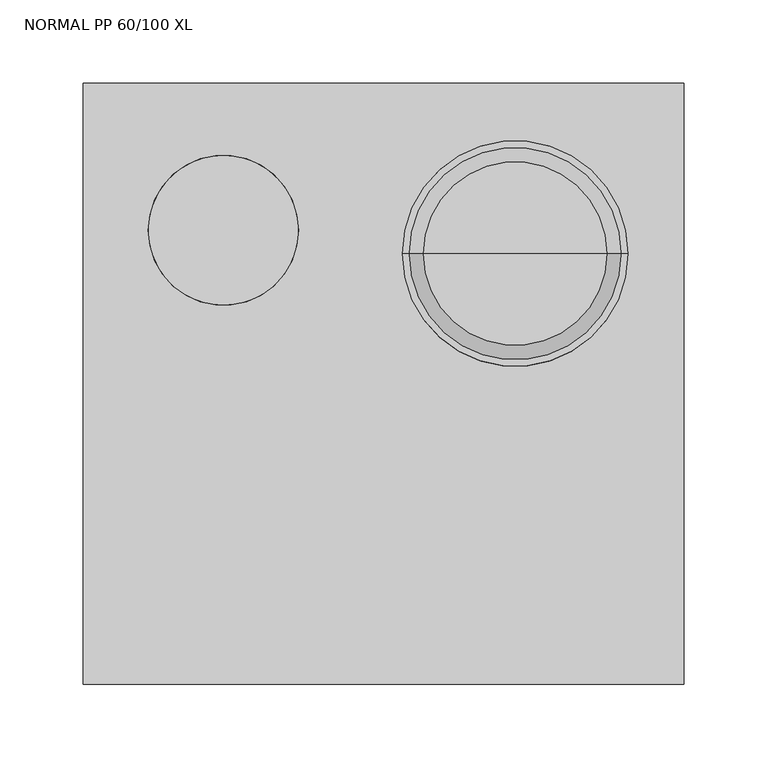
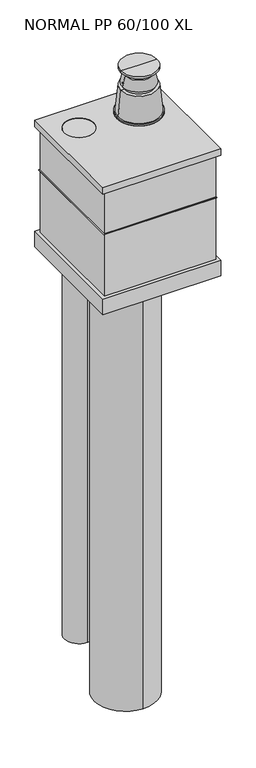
"""IFC4 building model written with IfcOpenShell, lengths in millimetres: proxy geometry, DERS_420_AM_AEB_Mini-Delta_M&G : NORMAL PP 60/100 XL."""

from ifc_helpers import new_model, si_unit, point, frame, frame_2d, origin, place, context, project, spatial, polyline, circle_curve, trimmed, segment, composite_curve, outline, extrude, faceted_brep, source, transform, mapped, element, save
from ifc_brep_helpers import plane_surface, cylinder_surface, revolved_surface, advanced_brep


def normal_pp_60_100_xl_eae264ee(model_context):
    return source(origin(), model_context, "Body", "SolidModel", [
        advanced_brep(
        [(166.5, 78.0, 568.2650457), (-8.5, 78.0, 568.2650457), (79.0, 78.0, 568.2650457), (146.6156617, 78.0, 677.2650457), (11.3843383, 78.0, 677.2650457), (146.6156617, 78.0, 682.2650457), (11.3843383, 78.0, 682.2650457), (142.6549252, 78.0, 682.2650457), (15.3450748, 78.0, 682.2650457), (134.0, 78.0, 764.611158), (24.0, 78.0, 764.611158), (124.0, 78.0, 764.611158), (34.0, 78.0, 764.611158), (124.0, 78.0, 774.611158), (34.0, 78.0, 774.611158), (129.038744, 78.0, 774.611158), (28.961256, 78.0, 774.611158), (121.5, 78.0, 807.2650457), (36.5, 78.0, 807.2650457), (89.0, 78.0, 807.2650457), (69.0, 78.0, 807.2650457), (89.0, 78.0, 809.2457936), (69.0, 78.0, 809.2457936), (134.0, 78.0, 821.3035072), (24.0, 78.0, 821.3035072), (134.0, 78.0, 827.2650457), (24.0, 78.0, 827.2650457), (79.0, 78.0, 827.2650457)],
        [
            (0, 1, circle_curve(frame((79.0, 78.0, 568.2650457), z_axis=(0.0, 0.0, -1.0), x_axis=(-1.0, 0.0, 0.0)), 87.5)),
            (1, 2),
            (2, 0),
            (1, 0, circle_curve(frame((79.0, 78.0, 568.2650457), z_axis=(0.0, 0.0, -1.0), x_axis=(-1.0, 0.0, 0.0)), 87.5)),
            (3, 4, circle_curve(frame((79.0, 78.0, 677.2650457), z_axis=(0.0, 0.0, -1.0), x_axis=(-1.0, 0.0, 0.0)), 67.6156617)),
            (4, 1),
            (0, 3),
            (4, 3, circle_curve(frame((79.0, 78.0, 677.2650457), z_axis=(0.0, 0.0, -1.0), x_axis=(-1.0, 0.0, 0.0)), 67.6156617)),
            (5, 6, circle_curve(frame((79.0, 78.0, 682.2650457), z_axis=(0.0, 0.0, -1.0), x_axis=(-1.0, 0.0, 0.0)), 67.6156617)),
            (6, 4),
            (3, 5),
            (6, 5, circle_curve(frame((79.0, 78.0, 682.2650457), z_axis=(0.0, 0.0, -1.0), x_axis=(-1.0, 0.0, 0.0)), 67.6156617)),
            (7, 8, circle_curve(frame((79.0, 78.0, 682.2650457), z_axis=(0.0, 0.0, -1.0), x_axis=(-1.0, 0.0, 0.0)), 63.6549252)),
            (8, 6),
            (5, 7),
            (8, 7, circle_curve(frame((79.0, 78.0, 682.2650457), z_axis=(0.0, 0.0, -1.0), x_axis=(-1.0, 0.0, 0.0)), 63.6549252)),
            (9, 10, circle_curve(frame((79.0, 78.0, 764.611158), z_axis=(0.0, 0.0, -1.0), x_axis=(-1.0, 0.0, 0.0)), 55.0)),
            (10, 8),
            (7, 9),
            (10, 9, circle_curve(frame((79.0, 78.0, 764.611158), z_axis=(0.0, 0.0, -1.0), x_axis=(-1.0, 0.0, 0.0)), 55.0)),
            (11, 12, circle_curve(frame((79.0, 78.0, 764.611158), z_axis=(0.0, 0.0, -1.0), x_axis=(-1.0, 0.0, 0.0)), 45.0)),
            (12, 10),
            (9, 11),
            (12, 11, circle_curve(frame((79.0, 78.0, 764.611158), z_axis=(0.0, 0.0, -1.0), x_axis=(-1.0, 0.0, 0.0)), 45.0)),
            (13, 14, circle_curve(frame((79.0, 78.0, 774.611158), z_axis=(0.0, 0.0, -1.0), x_axis=(-1.0, 0.0, 0.0)), 45.0)),
            (14, 12),
            (11, 13),
            (14, 13, circle_curve(frame((79.0, 78.0, 774.611158), z_axis=(0.0, 0.0, -1.0), x_axis=(-1.0, 0.0, 0.0)), 45.0)),
            (15, 16, circle_curve(frame((79.0, 78.0, 774.611158), z_axis=(0.0, 0.0, -1.0), x_axis=(-1.0, 0.0, 0.0)), 50.038744)),
            (16, 14),
            (13, 15),
            (16, 15, circle_curve(frame((79.0, 78.0, 774.611158), z_axis=(0.0, 0.0, -1.0), x_axis=(-1.0, 0.0, 0.0)), 50.038744)),
            (17, 18, circle_curve(frame((79.0, 78.0, 807.2650457), z_axis=(0.0, 0.0, -1.0), x_axis=(-1.0, 0.0, 0.0)), 42.5)),
            (18, 16),
            (15, 17),
            (18, 17, circle_curve(frame((79.0, 78.0, 807.2650457), z_axis=(0.0, 0.0, -1.0), x_axis=(-1.0, 0.0, 0.0)), 42.5)),
            (19, 20, circle_curve(frame((79.0, 78.0, 807.2650457), z_axis=(0.0, 0.0, -1.0), x_axis=(-1.0, 0.0, 0.0)), 10.0)),
            (20, 18),
            (17, 19),
            (20, 19, circle_curve(frame((79.0, 78.0, 807.2650457), z_axis=(0.0, 0.0, -1.0), x_axis=(-1.0, 0.0, 0.0)), 10.0)),
            (21, 22, circle_curve(frame((79.0, 78.0, 809.2457936), z_axis=(0.0, 0.0, -1.0), x_axis=(-1.0, 0.0, 0.0)), 10.0)),
            (22, 20),
            (19, 21),
            (22, 21, circle_curve(frame((79.0, 78.0, 809.2457936), z_axis=(0.0, 0.0, -1.0), x_axis=(-1.0, 0.0, 0.0)), 10.0)),
            (23, 24, circle_curve(frame((79.0, 78.0, 821.3035072), z_axis=(0.0, 0.0, -1.0), x_axis=(-1.0, 0.0, 0.0)), 55.0)),
            (24, 22),
            (21, 23),
            (24, 23, circle_curve(frame((79.0, 78.0, 821.3035072), z_axis=(0.0, 0.0, -1.0), x_axis=(-1.0, 0.0, 0.0)), 55.0)),
            (25, 26, circle_curve(frame((79.0, 78.0, 827.2650457), z_axis=(0.0, 0.0, -1.0), x_axis=(-1.0, 0.0, 0.0)), 55.0)),
            (26, 24),
            (23, 25),
            (26, 25, circle_curve(frame((79.0, 78.0, 827.2650457), z_axis=(0.0, 0.0, -1.0), x_axis=(-1.0, 0.0, 0.0)), 55.0)),
            (27, 26),
            (25, 27),
        ],
        [
            plane_surface(frame((79.0, 78.0, 568.2650457), z_axis=(0.0, 0.0, -1.0), x_axis=(-1.0, 0.0, 0.0))),
            revolved_surface(polyline([(-8.5, 78.0, 568.2650457), (11.3843383, 78.0, 677.2650457)]), (79.0, 78.0, -231.4661326), (0.0, 0.0, 1.0)),
            cylinder_surface(frame((79.0, 78.0, -231.4661326), z_axis=(0.0, 0.0, 1.0), x_axis=(-1.0, 0.0, 0.0)), 67.6156617),
            plane_surface(frame((79.0, 78.0, 682.2650457), z_axis=(0.0, 0.0, 1.0), x_axis=(-1.0, 0.0, 0.0))),
            revolved_surface(polyline([(15.3450748, 78.0, 682.2650457), (24.0, 78.0, 764.611158)]), (79.0, 78.0, -231.4661326), (0.0, 0.0, 1.0)),
            plane_surface(frame((79.0, 78.0, 764.611158), z_axis=(0.0, 0.0, 1.0), x_axis=(-1.0, 0.0, 0.0))),
            cylinder_surface(frame((79.0, 78.0, -231.4661326), z_axis=(0.0, 0.0, 1.0), x_axis=(-1.0, 0.0, 0.0)), 45.0),
            plane_surface(frame((79.0, 78.0, 774.611158), z_axis=(0.0, 0.0, -1.0), x_axis=(-1.0, 0.0, 0.0))),
            revolved_surface(polyline([(28.961256, 78.0, 774.611158), (36.5, 78.0, 807.2650457)]), (79.0, 78.0, -231.4661326), (0.0, 0.0, 1.0)),
            plane_surface(frame((79.0, 78.0, 807.2650457), z_axis=(0.0, 0.0, 1.0), x_axis=(-1.0, 0.0, 0.0))),
            cylinder_surface(frame((79.0, 78.0, -231.4661326), z_axis=(0.0, 0.0, 1.0), x_axis=(-1.0, 0.0, 0.0)), 10.0),
            revolved_surface(polyline([(69.0, 78.0, 809.2457936), (24.0, 78.0, 821.3035072)]), (79.0, 78.0, -231.4661326), (0.0, 0.0, 1.0)),
            cylinder_surface(frame((79.0, 78.0, -231.4661326), z_axis=(0.0, 0.0, 1.0), x_axis=(-1.0, 0.0, 0.0)), 55.0),
            plane_surface(frame((79.0, 78.0, 827.2650457), z_axis=(0.0, 0.0, 1.0), x_axis=(-1.0, 0.0, 0.0))),
        ],
        [
            (0, [[1, 2, 3]]),
            (0, [[4, -3, -2]]),
            (1, [[5, 6, -1, 7]]),
            (1, [[8, -7, -4, -6]]),
            (2, [[9, 10, -5, 11]]),
            (2, [[12, -11, -8, -10]]),
            (3, [[13, 14, -9, 15]]),
            (3, [[16, -15, -12, -14]]),
            (4, [[17, 18, -13, 19]]),
            (4, [[20, -19, -16, -18]]),
            (5, [[21, 22, -17, 23]]),
            (5, [[24, -23, -20, -22]]),
            (6, [[25, 26, -21, 27]]),
            (6, [[28, -27, -24, -26]]),
            (7, [[29, 30, -25, 31]]),
            (7, [[32, -31, -28, -30]]),
            (8, [[33, 34, -29, 35]]),
            (8, [[36, -35, -32, -34]]),
            (9, [[37, 38, -33, 39]]),
            (9, [[40, -39, -36, -38]]),
            (10, [[41, 42, -37, 43]]),
            (10, [[44, -43, -40, -42]]),
            (11, [[45, 46, -41, 47]]),
            (11, [[48, -47, -44, -46]]),
            (12, [[49, 50, -45, 51]]),
            (12, [[52, -51, -48, -50]]),
            (13, [[53, -49, 54]]),
            (13, [[-54, -52, -53]]),
        ],
    ),
        extrude(outline(polyline([(172.5, 172.5), (172.5, -172.5), (-172.5, -172.5), (-172.5, 172.5), (172.5, 172.5)])), frame((0.0, 0.0, 518.2650457), z_axis=(0.0, 0.0, 1.0), x_axis=(1.0, 0.0, 0.0)), (0.0, 0.0, 1.0), 1.3),
        extrude(outline(composite_curve([segment(trimmed(circle_curve(frame_2d((-96.0, 92.0)), 45.0), [point((-96.0, 47.0))], [point((-96.0, 137.0))], False, "CARTESIAN"), True, "CONTINUOUS"), segment(trimmed(circle_curve(frame_2d((-96.0, 92.0)), 45.0), [point((-96.0, 137.0))], [point((-96.0, 47.0))], False, "CARTESIAN"), True, "CONTINUOUS")], self_intersect=False)), frame((0.0, 0.0, -957.7349543), z_axis=(0.0, 0.0, 1.0), x_axis=(1.0, 0.0, 0.0)), (0.0, 0.0, 1.0), 1633.7),
        extrude(outline(composite_curve([segment(trimmed(circle_curve(frame_2d((79.0, 78.0)), 50.0), [point((79.0, 28.0))], [point((79.0, 128.0))], False, "CARTESIAN"), True, "CONTINUOUS"), segment(trimmed(circle_curve(frame_2d((79.0, 78.0)), 50.0), [point((79.0, 128.0))], [point((79.0, 28.0))], False, "CARTESIAN"), True, "CONTINUOUS")], self_intersect=False)), frame((0.0, 0.0, -791.7349543), z_axis=(0.0, 0.0, 1.0), x_axis=(1.0, 0.0, 0.0)), (0.0, 0.0, 1.0), 1449.0),
        extrude(outline(composite_curve([segment(trimmed(circle_curve(frame_2d((-31.0, -41.0)), 95.0), [point((-31.0, -136.0))], [point((-31.0, 54.0))], False, "CARTESIAN"), True, "CONTINUOUS"), segment(trimmed(circle_curve(frame_2d((-31.0, -41.0)), 95.0), [point((-31.0, 54.0))], [point((-31.0, -136.0))], False, "CARTESIAN"), True, "CONTINUOUS")], self_intersect=False)), frame((0.0, 0.0, -1083.7349543), z_axis=(0.0, 0.0, 1.0), x_axis=(1.0, 0.0, 0.0)), (0.0, 0.0, 1.0), 1500.0),
        advanced_brep(
        [(180.0, 180.0, 677.2650457), (-180.0, 180.0, 677.2650457), (-180.0, -180.0, 677.2650457), (180.0, -180.0, 677.2650457), (-141.0, 92.0, 677.2650457), (-51.0, 92.0, 677.2650457), (180.0, 180.0, 657.2650457), (180.0, -180.0, 657.2650457), (-180.0, -180.0, 657.2650457), (-180.0, 180.0, 657.2650457), (178.7, 178.7, 657.2650457), (-178.7, 178.7, 657.2650457), (-178.7, -178.7, 657.2650457), (178.7, -178.7, 657.2650457), (170.0, 170.0, 657.2650457), (170.0, -170.0, 657.2650457), (-170.0, -170.0, 657.2650457), (-170.0, 170.0, 657.2650457), (168.7, -168.7, 657.2650457), (168.7, 168.7, 657.2650457), (-168.7, 168.7, 657.2650457), (-168.7, -168.7, 657.2650457), (178.7, 178.7, 675.9650457), (178.7, -178.7, 675.9650457), (-178.7, -178.7, 675.9650457), (-178.7, 178.7, 675.9650457), (170.0, 170.0, 675.9650457), (-170.0, 170.0, 675.9650457), (-170.0, -170.0, 675.9650457), (170.0, -170.0, 675.9650457), (168.7, -168.7, 675.9650457), (-168.7, -168.7, 675.9650457), (-168.7, 168.7, 675.9650457), (168.7, 168.7, 675.9650457), (-51.0, 92.0, 675.9650457), (-141.0, 92.0, 675.9650457)],
        [
            (0, 1),
            (1, 2),
            (2, 3),
            (3, 0),
            (4, 5, circle_curve(frame((-96.0, 92.0, 677.2650457), z_axis=(0.0, 0.0, -1.0), x_axis=(1.0, 0.0, 0.0)), 45.0)),
            (5, 4, circle_curve(frame((-96.0, 92.0, 677.2650457), z_axis=(0.0, 0.0, -1.0), x_axis=(1.0, 0.0, 0.0)), 45.0)),
            (6, 7),
            (7, 8),
            (8, 9),
            (9, 6),
            (10, 11),
            (11, 12),
            (12, 13),
            (13, 10),
            (14, 15),
            (15, 16),
            (16, 17),
            (17, 14),
            (18, 19),
            (19, 20),
            (20, 21),
            (21, 18),
            (0, 6),
            (9, 1),
            (8, 2),
            (7, 3),
            (22, 23),
            (23, 24),
            (24, 25),
            (25, 22),
            (26, 27),
            (27, 28),
            (28, 29),
            (29, 26),
            (30, 31),
            (31, 32),
            (32, 33),
            (33, 30),
            (34, 35, circle_curve(frame((-96.0, 92.0, 675.9650457), z_axis=(0.0, 0.0, 1.0), x_axis=(1.0, 0.0, 0.0)), 45.0)),
            (35, 34, circle_curve(frame((-96.0, 92.0, 675.9650457), z_axis=(0.0, 0.0, 1.0), x_axis=(1.0, 0.0, 0.0)), 45.0)),
            (25, 11),
            (10, 22),
            (24, 12),
            (23, 13),
            (29, 15),
            (14, 26),
            (28, 16),
            (27, 17),
            (33, 19),
            (18, 30),
            (32, 20),
            (31, 21),
            (4, 35),
            (34, 5),
        ],
        [
            plane_surface(frame((-180.0, 180.0, 677.2650457), z_axis=(0.0, 0.0, 1.0), x_axis=(-1.0, 0.0, 0.0))),
            plane_surface(frame((-180.0, 180.0, 657.2650457), z_axis=(0.0, 0.0, -1.0), x_axis=(1.0, 0.0, 0.0))),
            plane_surface(frame((180.0, 180.0, 677.2650457), z_axis=(0.0, 1.0, 0.0), x_axis=(0.0, 0.0, -1.0))),
            plane_surface(frame((-180.0, 180.0, 677.2650457), z_axis=(-1.0, 0.0, 0.0), x_axis=(0.0, 0.0, -1.0))),
            plane_surface(frame((-180.0, -180.0, 677.2650457), z_axis=(0.0, -1.0, 0.0), x_axis=(0.0, 0.0, -1.0))),
            plane_surface(frame((180.0, -180.0, 677.2650457), z_axis=(1.0, 0.0, 0.0), x_axis=(0.0, 0.0, -1.0))),
            plane_surface(frame((-170.0, 178.7, 675.9650457), z_axis=(0.0, 0.0, -1.0), x_axis=(-1.0, 0.0, 0.0))),
            plane_surface(frame((178.7, 178.7, 675.9650457), z_axis=(0.0, -1.0, 0.0), x_axis=(0.0, 0.0, -1.0))),
            plane_surface(frame((-178.7, 178.7, 675.9650457), z_axis=(1.0, 0.0, 0.0), x_axis=(0.0, 0.0, -1.0))),
            plane_surface(frame((-178.7, -178.7, 675.9650457), z_axis=(0.0, 1.0, 0.0), x_axis=(0.0, 0.0, -1.0))),
            plane_surface(frame((178.7, -178.7, 675.9650457), z_axis=(-1.0, 0.0, 0.0), x_axis=(0.0, 0.0, -1.0))),
            plane_surface(frame((170.0, 170.0, 675.9650457), z_axis=(1.0, 0.0, 0.0), x_axis=(0.0, 0.0, -1.0))),
            plane_surface(frame((170.0, -170.0, 675.9650457), z_axis=(0.0, -1.0, 0.0), x_axis=(0.0, 0.0, -1.0))),
            plane_surface(frame((-170.0, -170.0, 675.9650457), z_axis=(-1.0, 0.0, 0.0), x_axis=(0.0, 0.0, -1.0))),
            plane_surface(frame((-170.0, 170.0, 675.9650457), z_axis=(0.0, 1.0, 0.0), x_axis=(0.0, 0.0, -1.0))),
            plane_surface(frame((168.7, -168.7, 675.9650457), z_axis=(-1.0, 0.0, 0.0), x_axis=(0.0, 0.0, -1.0))),
            plane_surface(frame((168.7, 168.7, 675.9650457), z_axis=(0.0, -1.0, 0.0), x_axis=(0.0, 0.0, -1.0))),
            plane_surface(frame((-168.7, 168.7, 675.9650457), z_axis=(1.0, 0.0, 0.0), x_axis=(0.0, 0.0, -1.0))),
            plane_surface(frame((-168.7, -168.7, 675.9650457), z_axis=(0.0, 1.0, 0.0), x_axis=(0.0, 0.0, -1.0))),
            revolved_surface(polyline([(-51.0, 92.0, 675.9650457), (-51.0, 92.0, 677.2650457)]), (-96.0, 92.0, 657.2650457), (0.0, 0.0, -1.0)),
        ],
        [
            (0, [[1, 2, 3, 4], [5, 6]]),
            (1, [[7, 8, 9, 10], [11, 12, 13, 14]]),
            (1, [[15, 16, 17, 18], [19, 20, 21, 22]]),
            (2, [[-1, 23, -10, 24]]),
            (3, [[-2, -24, -9, 25]]),
            (4, [[-3, -25, -8, 26]]),
            (5, [[-4, -26, -7, -23]]),
            (6, [[27, 28, 29, 30], [31, 32, 33, 34]]),
            (6, [[35, 36, 37, 38], [39, 40]]),
            (7, [[-30, 41, -11, 42]]),
            (8, [[-29, 43, -12, -41]]),
            (9, [[-28, 44, -13, -43]]),
            (10, [[-27, -42, -14, -44]]),
            (11, [[-34, 45, -15, 46]]),
            (12, [[-33, 47, -16, -45]]),
            (13, [[-32, 48, -17, -47]]),
            (14, [[-31, -46, -18, -48]]),
            (15, [[-38, 49, -19, 50]]),
            (16, [[-37, 51, -20, -49]]),
            (17, [[-36, 52, -21, -51]]),
            (18, [[-35, -50, -22, -52]]),
            (19, [[53, -39, 54, -5]]),
            (19, [[-53, -6, -54, -40]]),
        ],
    ),
        faceted_brep([(170.0, 170.0, 675.9650457), (-170.0, 170.0, 675.9650457), (-170.0, -170.0, 675.9650457), (170.0, -170.0, 675.9650457), (168.7, 168.7, 675.9650457), (168.7, -168.7, 675.9650457), (-168.7, -168.7, 675.9650457), (-168.7, 168.7, 675.9650457), (170.0, 170.0, 318.2650457), (170.0, -170.0, 318.2650457), (-170.0, -170.0, 318.2650457), (-170.0, 170.0, 318.2650457), (168.7, 168.7, 318.2650457), (-168.7, 168.7, 318.2650457), (-168.7, -168.7, 318.2650457), (168.7, -168.7, 318.2650457), (170.0, 170.0, 657.2650457), (-170.0, 170.0, 657.2650457), (-170.0, -170.0, 657.2650457), (170.0, -170.0, 657.2650457), (168.7, 168.7, 657.2650457), (168.7, -168.7, 657.2650457), (-168.7, -168.7, 657.2650457), (-168.7, 168.7, 657.2650457)], [[[0, 1, 2, 3], [4, 5, 6, 7]], [[8, 9, 10, 11], [12, 13, 14, 15]], [[1, 0, 16, 8, 11, 17]], [[2, 1, 17, 11, 10, 18]], [[3, 2, 18, 10, 9, 19]], [[0, 3, 19, 9, 8, 16]], [[5, 4, 20, 12, 15, 21]], [[6, 5, 21, 15, 14, 22]], [[7, 6, 22, 14, 13, 23]], [[4, 7, 23, 13, 12, 20]]]),
        faceted_brep([(180.0, 180.0, 268.2650457), (180.0, -180.0, 268.2650457), (-180.0, -180.0, 268.2650457), (-180.0, 180.0, 268.2650457), (178.7, 178.7, 268.2650457), (-178.7, 178.7, 268.2650457), (-178.7, -178.7, 268.2650457), (178.7, -178.7, 268.2650457), (180.0, 180.0, 318.2650457), (-180.0, 180.0, 318.2650457), (-180.0, -180.0, 318.2650457), (180.0, -180.0, 318.2650457), (178.7, 178.7, 316.9650457), (178.7, -178.7, 316.9650457), (-178.7, -178.7, 316.9650457), (-178.7, 178.7, 316.9650457)], [[[0, 1, 2, 3], [4, 5, 6, 7]], [[8, 9, 10, 11]], [[0, 3, 9, 8]], [[3, 2, 10, 9]], [[2, 1, 11, 10]], [[1, 0, 8, 11]], [[12, 13, 14, 15]], [[12, 15, 5, 4]], [[15, 14, 6, 5]], [[14, 13, 7, 6]], [[13, 12, 4, 7]]]),
    ])


if __name__ == "__main__":
    model = new_model("IFC4")
    model_context = context("Model", 3, world=origin())
    ifc_project = project(units=[si_unit("LENGTHUNIT", "METRE", prefix="MILLI")], contexts=[model_context])
    site = spatial("IfcSite", under=ifc_project)
    building = spatial("IfcBuilding", under=site)
    placement = place(None, origin())
    normal_pp_60_100_xl_shape = normal_pp_60_100_xl_eae264ee(model_context)
    element("IfcBuildingElementProxy", 1, Name="DERS_420_AM_AEB_Mini-Delta_M&G : NORMAL PP 60/100 XL", ObjectType="DERS_420_AM_AEB_Mini-Delta_M&G : NORMAL PP 60/100 XL", at=placement, inside=building, context=model_context, shape_type="MappedRepresentation", body=[
        mapped(normal_pp_60_100_xl_shape, transform((0.0, 0.0, 0.0), x_axis=(1.0, 0.0, 0.0), y_axis=(0.0, 1.0, 0.0), z_axis=(0.0, 0.0, 1.0))),
    ])
    save(model, "model.ifc")
